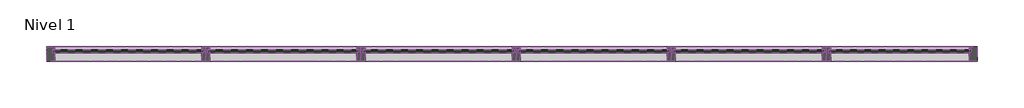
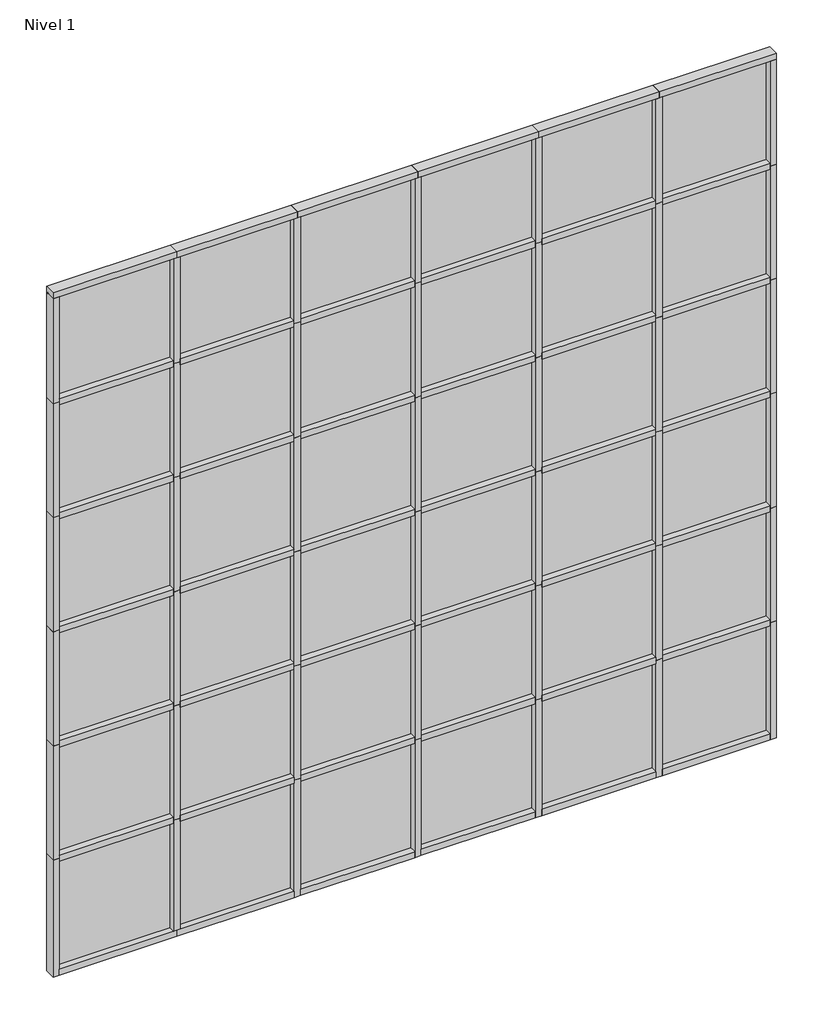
# One storey, part 5 of 12: 84 members, 36 plates.
"""IFC4 building model written with IfcOpenShell, lengths in millimetres."""

from ifc_helpers import new_model, si_unit, origin, place, context, project, spatial, transform, mapped, element, save
from components import montante_rectangular_montante_rectangular_central_30_8_mm_2c331f7a, montante_rectangular_montante_rectangular_central_30_8_mm_c970fd36, montante_rectangular_montante_rectangular_central_30_8_mm_e5800b63, montante_rectangular_montante_rectangular_central_30_8_mm_53c3e57f, montante_rectangular_montante_rectangular_central_30_8_mm_d86f33cf, montante_rectangular_montante_rectangular_central_30_8_mm_2cc1dee6, montante_rectangular_montante_rectangular_extremo_1_30_8_mm_80b4f17c, montante_rectangular_montante_rectangular_extremo_1_30_8_mm_140b2925, montante_rectangular_montante_rectangular_extremo_1_30_8_mm_5074caf2, montante_rectangular_montante_rectangular_extremo_1_30_8_mm_62ab01bd, montante_rectangular_montante_rectangular_extremo_1_30_8_mm_7b62097b, montante_rectangular_montante_rectangular_extremo_1_30_8_mm_4f2bc4b4, plate_e0fb009f, plate_7c9cb06b, plate_31a977c4, plate_dd025fa3

model = new_model("IFC4")

# Units and contexts
model_context = context("Model", 3, world=origin())
ifc_project = project(units=[si_unit("LENGTHUNIT", "METRE", prefix="MILLI")], contexts=[model_context])

# Site, building, storey
site = spatial("IfcSite", under=ifc_project)
building = spatial("IfcBuilding", under=site)
storey = spatial("IfcBuildingStorey", under=building, Name="Nivel 1", Elevation=0.0)

# Members
placement = place(None, origin())
montante_rectangular_montante_rectangular_central_30_8_mm_shape = montante_rectangular_montante_rectangular_central_30_8_mm_2c331f7a(model_context)
element("IfcMember", 1, ObjectType="Montante rectangular : Montante rectangular - Central_30.8 mm", at=placement, inside=storey, context=model_context, shape_type="MappedRepresentation", body=[
    mapped(montante_rectangular_montante_rectangular_central_30_8_mm_shape, transform((-86117.5480244, 4524.4730809, 1540.0), x_axis=(0.0, 0.0, 1.0), y_axis=(0.0, -1.0, 0.0), z_axis=(1.0, 0.0, 0.0))),
])
element("IfcMember", 2, ObjectType="Montante rectangular : Montante rectangular - Central_30.8 mm", at=placement, inside=storey, context=model_context, shape_type="MappedRepresentation", body=[
    mapped(montante_rectangular_montante_rectangular_central_30_8_mm_shape, transform((-84617.5480244, 4524.4730809, 1540.0), x_axis=(0.0, 0.0, 1.0), y_axis=(0.0, -1.0, 0.0), z_axis=(1.0, 0.0, 0.0))),
])
element("IfcMember", 3, ObjectType="Montante rectangular : Montante rectangular - Central_30.8 mm", at=placement, inside=storey, context=model_context, shape_type="MappedRepresentation", body=[
    mapped(montante_rectangular_montante_rectangular_central_30_8_mm_shape, transform((-83117.5480244, 4524.4730809, 1540.0), x_axis=(0.0, 0.0, 1.0), y_axis=(0.0, -1.0, 0.0), z_axis=(1.0, 0.0, 0.0))),
])
element("IfcMember", 4, ObjectType="Montante rectangular : Montante rectangular - Central_30.8 mm", at=placement, inside=storey, context=model_context, shape_type="MappedRepresentation", body=[
    mapped(montante_rectangular_montante_rectangular_central_30_8_mm_shape, transform((-81617.5480244, 4524.4730809, 1540.0), x_axis=(0.0, 0.0, 1.0), y_axis=(0.0, -1.0, 0.0), z_axis=(1.0, 0.0, 0.0))),
])
element("IfcMember", 5, ObjectType="Montante rectangular : Montante rectangular - Central_30.8 mm", at=placement, inside=storey, context=model_context, shape_type="MappedRepresentation", body=[
    mapped(montante_rectangular_montante_rectangular_central_30_8_mm_shape, transform((-80117.5480244, 4524.4730809, 1540.0), x_axis=(0.0, 0.0, 1.0), y_axis=(0.0, -1.0, 0.0), z_axis=(1.0, 0.0, 0.0))),
])
element("IfcMember", 6, ObjectType="Montante rectangular : Montante rectangular - Central_30.8 mm", at=placement, inside=storey, context=model_context, shape_type="MappedRepresentation", body=[
    mapped(montante_rectangular_montante_rectangular_central_30_8_mm_shape, transform((-86117.5480244, 4524.4730809, 3040.0), x_axis=(0.0, 0.0, 1.0), y_axis=(0.0, -1.0, 0.0), z_axis=(1.0, 0.0, 0.0))),
])
element("IfcMember", 7, ObjectType="Montante rectangular : Montante rectangular - Central_30.8 mm", at=placement, inside=storey, context=model_context, shape_type="MappedRepresentation", body=[
    mapped(montante_rectangular_montante_rectangular_central_30_8_mm_shape, transform((-84617.5480244, 4524.4730809, 3040.0), x_axis=(0.0, 0.0, 1.0), y_axis=(0.0, -1.0, 0.0), z_axis=(1.0, 0.0, 0.0))),
])
element("IfcMember", 8, ObjectType="Montante rectangular : Montante rectangular - Central_30.8 mm", at=placement, inside=storey, context=model_context, shape_type="MappedRepresentation", body=[
    mapped(montante_rectangular_montante_rectangular_central_30_8_mm_shape, transform((-83117.5480244, 4524.4730809, 3040.0), x_axis=(0.0, 0.0, 1.0), y_axis=(0.0, -1.0, 0.0), z_axis=(1.0, 0.0, 0.0))),
])
element("IfcMember", 9, ObjectType="Montante rectangular : Montante rectangular - Central_30.8 mm", at=placement, inside=storey, context=model_context, shape_type="MappedRepresentation", body=[
    mapped(montante_rectangular_montante_rectangular_central_30_8_mm_shape, transform((-81617.5480244, 4524.4730809, 3040.0), x_axis=(0.0, 0.0, 1.0), y_axis=(0.0, -1.0, 0.0), z_axis=(1.0, 0.0, 0.0))),
])
element("IfcMember", 10, ObjectType="Montante rectangular : Montante rectangular - Central_30.8 mm", at=placement, inside=storey, context=model_context, shape_type="MappedRepresentation", body=[
    mapped(montante_rectangular_montante_rectangular_central_30_8_mm_shape, transform((-80117.5480244, 4524.4730809, 3040.0), x_axis=(0.0, 0.0, 1.0), y_axis=(0.0, -1.0, 0.0), z_axis=(1.0, 0.0, 0.0))),
])
element("IfcMember", 11, ObjectType="Montante rectangular : Montante rectangular - Central_30.8 mm", at=placement, inside=storey, context=model_context, shape_type="MappedRepresentation", body=[
    mapped(montante_rectangular_montante_rectangular_central_30_8_mm_shape, transform((-86117.5480244, 4524.4730809, 4540.0), x_axis=(0.0, 0.0, 1.0), y_axis=(0.0, -1.0, 0.0), z_axis=(1.0, 0.0, 0.0))),
])
element("IfcMember", 12, ObjectType="Montante rectangular : Montante rectangular - Central_30.8 mm", at=placement, inside=storey, context=model_context, shape_type="MappedRepresentation", body=[
    mapped(montante_rectangular_montante_rectangular_central_30_8_mm_shape, transform((-84617.5480244, 4524.4730809, 4540.0), x_axis=(0.0, 0.0, 1.0), y_axis=(0.0, -1.0, 0.0), z_axis=(1.0, 0.0, 0.0))),
])
element("IfcMember", 13, ObjectType="Montante rectangular : Montante rectangular - Central_30.8 mm", at=placement, inside=storey, context=model_context, shape_type="MappedRepresentation", body=[
    mapped(montante_rectangular_montante_rectangular_central_30_8_mm_shape, transform((-83117.5480244, 4524.4730809, 4540.0), x_axis=(0.0, 0.0, 1.0), y_axis=(0.0, -1.0, 0.0), z_axis=(1.0, 0.0, 0.0))),
])
element("IfcMember", 14, ObjectType="Montante rectangular : Montante rectangular - Central_30.8 mm", at=placement, inside=storey, context=model_context, shape_type="MappedRepresentation", body=[
    mapped(montante_rectangular_montante_rectangular_central_30_8_mm_shape, transform((-81617.5480244, 4524.4730809, 4540.0), x_axis=(0.0, 0.0, 1.0), y_axis=(0.0, -1.0, 0.0), z_axis=(1.0, 0.0, 0.0))),
])
element("IfcMember", 15, ObjectType="Montante rectangular : Montante rectangular - Central_30.8 mm", at=placement, inside=storey, context=model_context, shape_type="MappedRepresentation", body=[
    mapped(montante_rectangular_montante_rectangular_central_30_8_mm_shape, transform((-80117.5480244, 4524.4730809, 4540.0), x_axis=(0.0, 0.0, 1.0), y_axis=(0.0, -1.0, 0.0), z_axis=(1.0, 0.0, 0.0))),
])
element("IfcMember", 16, ObjectType="Montante rectangular : Montante rectangular - Central_30.8 mm", at=placement, inside=storey, context=model_context, shape_type="MappedRepresentation", body=[
    mapped(montante_rectangular_montante_rectangular_central_30_8_mm_shape, transform((-86117.5480244, 4524.4730809, 6040.0), x_axis=(0.0, 0.0, 1.0), y_axis=(0.0, -1.0, 0.0), z_axis=(1.0, 0.0, 0.0))),
])
element("IfcMember", 17, ObjectType="Montante rectangular : Montante rectangular - Central_30.8 mm", at=placement, inside=storey, context=model_context, shape_type="MappedRepresentation", body=[
    mapped(montante_rectangular_montante_rectangular_central_30_8_mm_shape, transform((-84617.5480244, 4524.4730809, 6040.0), x_axis=(0.0, 0.0, 1.0), y_axis=(0.0, -1.0, 0.0), z_axis=(1.0, 0.0, 0.0))),
])
element("IfcMember", 18, ObjectType="Montante rectangular : Montante rectangular - Central_30.8 mm", at=placement, inside=storey, context=model_context, shape_type="MappedRepresentation", body=[
    mapped(montante_rectangular_montante_rectangular_central_30_8_mm_shape, transform((-83117.5480244, 4524.4730809, 6040.0), x_axis=(0.0, 0.0, 1.0), y_axis=(0.0, -1.0, 0.0), z_axis=(1.0, 0.0, 0.0))),
])
element("IfcMember", 19, ObjectType="Montante rectangular : Montante rectangular - Central_30.8 mm", at=placement, inside=storey, context=model_context, shape_type="MappedRepresentation", body=[
    mapped(montante_rectangular_montante_rectangular_central_30_8_mm_shape, transform((-81617.5480244, 4524.4730809, 6040.0), x_axis=(0.0, 0.0, 1.0), y_axis=(0.0, -1.0, 0.0), z_axis=(1.0, 0.0, 0.0))),
])
element("IfcMember", 20, ObjectType="Montante rectangular : Montante rectangular - Central_30.8 mm", at=placement, inside=storey, context=model_context, shape_type="MappedRepresentation", body=[
    mapped(montante_rectangular_montante_rectangular_central_30_8_mm_shape, transform((-80117.5480244, 4524.4730809, 6040.0), x_axis=(0.0, 0.0, 1.0), y_axis=(0.0, -1.0, 0.0), z_axis=(1.0, 0.0, 0.0))),
])
element("IfcMember", 21, ObjectType="Montante rectangular : Montante rectangular - Central_30.8 mm", at=placement, inside=storey, context=model_context, shape_type="MappedRepresentation", body=[
    mapped(montante_rectangular_montante_rectangular_central_30_8_mm_shape, transform((-86117.5480244, 4524.4730809, 7540.0), x_axis=(0.0, 0.0, 1.0), y_axis=(0.0, -1.0, 0.0), z_axis=(1.0, 0.0, 0.0))),
])
element("IfcMember", 22, ObjectType="Montante rectangular : Montante rectangular - Central_30.8 mm", at=placement, inside=storey, context=model_context, shape_type="MappedRepresentation", body=[
    mapped(montante_rectangular_montante_rectangular_central_30_8_mm_shape, transform((-84617.5480244, 4524.4730809, 7540.0), x_axis=(0.0, 0.0, 1.0), y_axis=(0.0, -1.0, 0.0), z_axis=(1.0, 0.0, 0.0))),
])
element("IfcMember", 23, ObjectType="Montante rectangular : Montante rectangular - Central_30.8 mm", at=placement, inside=storey, context=model_context, shape_type="MappedRepresentation", body=[
    mapped(montante_rectangular_montante_rectangular_central_30_8_mm_shape, transform((-83117.5480244, 4524.4730809, 7540.0), x_axis=(0.0, 0.0, 1.0), y_axis=(0.0, -1.0, 0.0), z_axis=(1.0, 0.0, 0.0))),
])
element("IfcMember", 24, ObjectType="Montante rectangular : Montante rectangular - Central_30.8 mm", at=placement, inside=storey, context=model_context, shape_type="MappedRepresentation", body=[
    mapped(montante_rectangular_montante_rectangular_central_30_8_mm_shape, transform((-81617.5480244, 4524.4730809, 7540.0), x_axis=(0.0, 0.0, 1.0), y_axis=(0.0, -1.0, 0.0), z_axis=(1.0, 0.0, 0.0))),
])
element("IfcMember", 25, ObjectType="Montante rectangular : Montante rectangular - Central_30.8 mm", at=placement, inside=storey, context=model_context, shape_type="MappedRepresentation", body=[
    mapped(montante_rectangular_montante_rectangular_central_30_8_mm_shape, transform((-80117.5480244, 4524.4730809, 7540.0), x_axis=(0.0, 0.0, 1.0), y_axis=(0.0, -1.0, 0.0), z_axis=(1.0, 0.0, 0.0))),
])
montante_rectangular_montante_rectangular_central_30_8_mm_2_shape = montante_rectangular_montante_rectangular_central_30_8_mm_c970fd36(model_context)
element("IfcMember", 26, ObjectType="Montante rectangular : Montante rectangular - Central_30.8 mm", at=placement, inside=storey, context=model_context, shape_type="MappedRepresentation", body=[
    mapped(montante_rectangular_montante_rectangular_central_30_8_mm_2_shape, transform((-86077.5480244, 4524.4730809, 80.0), x_axis=(1.0, 0.0, 0.0), y_axis=(0.0, -1.0, 0.0), z_axis=(0.0, 0.0, -1.0))),
])
montante_rectangular_montante_rectangular_central_30_8_mm_3_shape = montante_rectangular_montante_rectangular_central_30_8_mm_e5800b63(model_context)
element("IfcMember", 27, ObjectType="Montante rectangular : Montante rectangular - Central_30.8 mm", at=placement, inside=storey, context=model_context, shape_type="MappedRepresentation", body=[
    mapped(montante_rectangular_montante_rectangular_central_30_8_mm_3_shape, transform((-86077.5480244, 4524.4730809, 1540.0), x_axis=(1.0, 0.0, 0.0), y_axis=(0.0, -1.0, 0.0), z_axis=(0.0, 0.0, -1.0))),
])
element("IfcMember", 28, ObjectType="Montante rectangular : Montante rectangular - Central_30.8 mm", at=placement, inside=storey, context=model_context, shape_type="MappedRepresentation", body=[
    mapped(montante_rectangular_montante_rectangular_central_30_8_mm_3_shape, transform((-84577.5480244, 4524.4730809, 1540.0), x_axis=(1.0, 0.0, 0.0), y_axis=(0.0, -1.0, 0.0), z_axis=(0.0, 0.0, -1.0))),
])
element("IfcMember", 29, ObjectType="Montante rectangular : Montante rectangular - Central_30.8 mm", at=placement, inside=storey, context=model_context, shape_type="MappedRepresentation", body=[
    mapped(montante_rectangular_montante_rectangular_central_30_8_mm_3_shape, transform((-83077.5480244, 4524.4730809, 1540.0), x_axis=(1.0, 0.0, 0.0), y_axis=(0.0, -1.0, 0.0), z_axis=(0.0, 0.0, -1.0))),
])
element("IfcMember", 30, ObjectType="Montante rectangular : Montante rectangular - Central_30.8 mm", at=placement, inside=storey, context=model_context, shape_type="MappedRepresentation", body=[
    mapped(montante_rectangular_montante_rectangular_central_30_8_mm_3_shape, transform((-81577.5480244, 4524.4730809, 1540.0), x_axis=(1.0, 0.0, 0.0), y_axis=(0.0, -1.0, 0.0), z_axis=(0.0, 0.0, -1.0))),
])
element("IfcMember", 31, ObjectType="Montante rectangular : Montante rectangular - Central_30.8 mm", at=placement, inside=storey, context=model_context, shape_type="MappedRepresentation", body=[
    mapped(montante_rectangular_montante_rectangular_central_30_8_mm_3_shape, transform((-80077.5480244, 4524.4730809, 1540.0), x_axis=(1.0, 0.0, 0.0), y_axis=(0.0, -1.0, 0.0), z_axis=(0.0, 0.0, -1.0))),
])
element("IfcMember", 32, ObjectType="Montante rectangular : Montante rectangular - Central_30.8 mm", at=placement, inside=storey, context=model_context, shape_type="MappedRepresentation", body=[
    mapped(montante_rectangular_montante_rectangular_central_30_8_mm_3_shape, transform((-86077.5480244, 4524.4730809, 3040.0), x_axis=(1.0, 0.0, 0.0), y_axis=(0.0, -1.0, 0.0), z_axis=(0.0, 0.0, -1.0))),
])
element("IfcMember", 33, ObjectType="Montante rectangular : Montante rectangular - Central_30.8 mm", at=placement, inside=storey, context=model_context, shape_type="MappedRepresentation", body=[
    mapped(montante_rectangular_montante_rectangular_central_30_8_mm_3_shape, transform((-86077.5480244, 4524.4730809, 4540.0), x_axis=(1.0, 0.0, 0.0), y_axis=(0.0, -1.0, 0.0), z_axis=(0.0, 0.0, -1.0))),
])
element("IfcMember", 34, ObjectType="Montante rectangular : Montante rectangular - Central_30.8 mm", at=placement, inside=storey, context=model_context, shape_type="MappedRepresentation", body=[
    mapped(montante_rectangular_montante_rectangular_central_30_8_mm_3_shape, transform((-86077.5480244, 4524.4730809, 6040.0), x_axis=(1.0, 0.0, 0.0), y_axis=(0.0, -1.0, 0.0), z_axis=(0.0, 0.0, -1.0))),
])
element("IfcMember", 35, ObjectType="Montante rectangular : Montante rectangular - Central_30.8 mm", at=placement, inside=storey, context=model_context, shape_type="MappedRepresentation", body=[
    mapped(montante_rectangular_montante_rectangular_central_30_8_mm_3_shape, transform((-84577.5480244, 4524.4730809, 3040.0), x_axis=(1.0, 0.0, 0.0), y_axis=(0.0, -1.0, 0.0), z_axis=(0.0, 0.0, -1.0))),
])
element("IfcMember", 36, ObjectType="Montante rectangular : Montante rectangular - Central_30.8 mm", at=placement, inside=storey, context=model_context, shape_type="MappedRepresentation", body=[
    mapped(montante_rectangular_montante_rectangular_central_30_8_mm_3_shape, transform((-84577.5480244, 4524.4730809, 4540.0), x_axis=(1.0, 0.0, 0.0), y_axis=(0.0, -1.0, 0.0), z_axis=(0.0, 0.0, -1.0))),
])
element("IfcMember", 37, ObjectType="Montante rectangular : Montante rectangular - Central_30.8 mm", at=placement, inside=storey, context=model_context, shape_type="MappedRepresentation", body=[
    mapped(montante_rectangular_montante_rectangular_central_30_8_mm_3_shape, transform((-84577.5480244, 4524.4730809, 6040.0), x_axis=(1.0, 0.0, 0.0), y_axis=(0.0, -1.0, 0.0), z_axis=(0.0, 0.0, -1.0))),
])
element("IfcMember", 38, ObjectType="Montante rectangular : Montante rectangular - Central_30.8 mm", at=placement, inside=storey, context=model_context, shape_type="MappedRepresentation", body=[
    mapped(montante_rectangular_montante_rectangular_central_30_8_mm_3_shape, transform((-83077.5480244, 4524.4730809, 3040.0), x_axis=(1.0, 0.0, 0.0), y_axis=(0.0, -1.0, 0.0), z_axis=(0.0, 0.0, -1.0))),
])
element("IfcMember", 39, ObjectType="Montante rectangular : Montante rectangular - Central_30.8 mm", at=placement, inside=storey, context=model_context, shape_type="MappedRepresentation", body=[
    mapped(montante_rectangular_montante_rectangular_central_30_8_mm_3_shape, transform((-83077.5480244, 4524.4730809, 4540.0), x_axis=(1.0, 0.0, 0.0), y_axis=(0.0, -1.0, 0.0), z_axis=(0.0, 0.0, -1.0))),
])
element("IfcMember", 40, ObjectType="Montante rectangular : Montante rectangular - Central_30.8 mm", at=placement, inside=storey, context=model_context, shape_type="MappedRepresentation", body=[
    mapped(montante_rectangular_montante_rectangular_central_30_8_mm_3_shape, transform((-83077.5480244, 4524.4730809, 6040.0), x_axis=(1.0, 0.0, 0.0), y_axis=(0.0, -1.0, 0.0), z_axis=(0.0, 0.0, -1.0))),
])
element("IfcMember", 41, ObjectType="Montante rectangular : Montante rectangular - Central_30.8 mm", at=placement, inside=storey, context=model_context, shape_type="MappedRepresentation", body=[
    mapped(montante_rectangular_montante_rectangular_central_30_8_mm_3_shape, transform((-81577.5480244, 4524.4730809, 3040.0), x_axis=(1.0, 0.0, 0.0), y_axis=(0.0, -1.0, 0.0), z_axis=(0.0, 0.0, -1.0))),
])
element("IfcMember", 42, ObjectType="Montante rectangular : Montante rectangular - Central_30.8 mm", at=placement, inside=storey, context=model_context, shape_type="MappedRepresentation", body=[
    mapped(montante_rectangular_montante_rectangular_central_30_8_mm_3_shape, transform((-81577.5480244, 4524.4730809, 4540.0), x_axis=(1.0, 0.0, 0.0), y_axis=(0.0, -1.0, 0.0), z_axis=(0.0, 0.0, -1.0))),
])
element("IfcMember", 43, ObjectType="Montante rectangular : Montante rectangular - Central_30.8 mm", at=placement, inside=storey, context=model_context, shape_type="MappedRepresentation", body=[
    mapped(montante_rectangular_montante_rectangular_central_30_8_mm_3_shape, transform((-81577.5480244, 4524.4730809, 6040.0), x_axis=(1.0, 0.0, 0.0), y_axis=(0.0, -1.0, 0.0), z_axis=(0.0, 0.0, -1.0))),
])
element("IfcMember", 44, ObjectType="Montante rectangular : Montante rectangular - Central_30.8 mm", at=placement, inside=storey, context=model_context, shape_type="MappedRepresentation", body=[
    mapped(montante_rectangular_montante_rectangular_central_30_8_mm_3_shape, transform((-80077.5480244, 4524.4730809, 3040.0), x_axis=(1.0, 0.0, 0.0), y_axis=(0.0, -1.0, 0.0), z_axis=(0.0, 0.0, -1.0))),
])
element("IfcMember", 45, ObjectType="Montante rectangular : Montante rectangular - Central_30.8 mm", at=placement, inside=storey, context=model_context, shape_type="MappedRepresentation", body=[
    mapped(montante_rectangular_montante_rectangular_central_30_8_mm_3_shape, transform((-80077.5480244, 4524.4730809, 4540.0), x_axis=(1.0, 0.0, 0.0), y_axis=(0.0, -1.0, 0.0), z_axis=(0.0, 0.0, -1.0))),
])
element("IfcMember", 46, ObjectType="Montante rectangular : Montante rectangular - Central_30.8 mm", at=placement, inside=storey, context=model_context, shape_type="MappedRepresentation", body=[
    mapped(montante_rectangular_montante_rectangular_central_30_8_mm_3_shape, transform((-80077.5480244, 4524.4730809, 6040.0), x_axis=(1.0, 0.0, 0.0), y_axis=(0.0, -1.0, 0.0), z_axis=(0.0, 0.0, -1.0))),
])
montante_rectangular_montante_rectangular_central_30_8_mm_4_shape = montante_rectangular_montante_rectangular_central_30_8_mm_53c3e57f(model_context)
element("IfcMember", 47, ObjectType="Montante rectangular : Montante rectangular - Central_30.8 mm", at=placement, inside=storey, context=model_context, shape_type="MappedRepresentation", body=[
    mapped(montante_rectangular_montante_rectangular_central_30_8_mm_4_shape, transform((-84577.5480244, 4524.4730809, 0.0), x_axis=(1.0, 0.0, 0.0), y_axis=(0.0, -1.0, 0.0), z_axis=(0.0, 0.0, -1.0))),
])
element("IfcMember", 48, ObjectType="Montante rectangular : Montante rectangular - Central_30.8 mm", at=placement, inside=storey, context=model_context, shape_type="MappedRepresentation", body=[
    mapped(montante_rectangular_montante_rectangular_central_30_8_mm_4_shape, transform((-83077.5480244, 4524.4730809, 0.0), x_axis=(1.0, 0.0, 0.0), y_axis=(0.0, -1.0, 0.0), z_axis=(0.0, 0.0, -1.0))),
])
element("IfcMember", 49, ObjectType="Montante rectangular : Montante rectangular - Central_30.8 mm", at=placement, inside=storey, context=model_context, shape_type="MappedRepresentation", body=[
    mapped(montante_rectangular_montante_rectangular_central_30_8_mm_4_shape, transform((-81577.5480244, 4524.4730809, 0.0), x_axis=(1.0, 0.0, 0.0), y_axis=(0.0, -1.0, 0.0), z_axis=(0.0, 0.0, -1.0))),
])
element("IfcMember", 50, ObjectType="Montante rectangular : Montante rectangular - Central_30.8 mm", at=placement, inside=storey, context=model_context, shape_type="MappedRepresentation", body=[
    mapped(montante_rectangular_montante_rectangular_central_30_8_mm_4_shape, transform((-80077.5480244, 4524.4730809, 0.0), x_axis=(1.0, 0.0, 0.0), y_axis=(0.0, -1.0, 0.0), z_axis=(0.0, 0.0, -1.0))),
])
montante_rectangular_montante_rectangular_central_30_8_mm_5_shape = montante_rectangular_montante_rectangular_central_30_8_mm_d86f33cf(model_context)
element("IfcMember", 51, ObjectType="Montante rectangular : Montante rectangular - Central_30.8 mm", at=placement, inside=storey, context=model_context, shape_type="MappedRepresentation", body=[
    mapped(montante_rectangular_montante_rectangular_central_30_8_mm_5_shape, transform((-78697.5480244, 4524.4730809, 1540.0), x_axis=(0.0, 0.0, 1.0), y_axis=(0.0, -1.0, 0.0), z_axis=(1.0, 0.0, 0.0))),
])
element("IfcMember", 52, ObjectType="Montante rectangular : Montante rectangular - Central_30.8 mm", at=placement, inside=storey, context=model_context, shape_type="MappedRepresentation", body=[
    mapped(montante_rectangular_montante_rectangular_central_30_8_mm_5_shape, transform((-78697.5480244, 4524.4730809, 3040.0), x_axis=(0.0, 0.0, 1.0), y_axis=(0.0, -1.0, 0.0), z_axis=(1.0, 0.0, 0.0))),
])
element("IfcMember", 53, ObjectType="Montante rectangular : Montante rectangular - Central_30.8 mm", at=placement, inside=storey, context=model_context, shape_type="MappedRepresentation", body=[
    mapped(montante_rectangular_montante_rectangular_central_30_8_mm_5_shape, transform((-78697.5480244, 4524.4730809, 4540.0), x_axis=(0.0, 0.0, 1.0), y_axis=(0.0, -1.0, 0.0), z_axis=(1.0, 0.0, 0.0))),
])
element("IfcMember", 54, ObjectType="Montante rectangular : Montante rectangular - Central_30.8 mm", at=placement, inside=storey, context=model_context, shape_type="MappedRepresentation", body=[
    mapped(montante_rectangular_montante_rectangular_central_30_8_mm_5_shape, transform((-78697.5480244, 4524.4730809, 6040.0), x_axis=(0.0, 0.0, 1.0), y_axis=(0.0, -1.0, 0.0), z_axis=(1.0, 0.0, 0.0))),
])
element("IfcMember", 55, ObjectType="Montante rectangular : Montante rectangular - Central_30.8 mm", at=placement, inside=storey, context=model_context, shape_type="MappedRepresentation", body=[
    mapped(montante_rectangular_montante_rectangular_central_30_8_mm_5_shape, transform((-78697.5480244, 4524.4730809, 7540.0), x_axis=(0.0, 0.0, 1.0), y_axis=(0.0, -1.0, 0.0), z_axis=(1.0, 0.0, 0.0))),
])
montante_rectangular_montante_rectangular_central_30_8_mm_6_shape = montante_rectangular_montante_rectangular_central_30_8_mm_2cc1dee6(model_context)
element("IfcMember", 56, ObjectType="Montante rectangular : Montante rectangular - Central_30.8 mm", at=placement, inside=storey, context=model_context, shape_type="MappedRepresentation", body=[
    mapped(montante_rectangular_montante_rectangular_central_30_8_mm_6_shape, transform((-86077.5480244, 4524.4730809, 7540.0), x_axis=(1.0, 0.0, 0.0), y_axis=(0.0, -1.0, 0.0), z_axis=(0.0, 0.0, -1.0))),
])
element("IfcMember", 57, ObjectType="Montante rectangular : Montante rectangular - Central_30.8 mm", at=placement, inside=storey, context=model_context, shape_type="MappedRepresentation", body=[
    mapped(montante_rectangular_montante_rectangular_central_30_8_mm_6_shape, transform((-84577.5480244, 4524.4730809, 7540.0), x_axis=(1.0, 0.0, 0.0), y_axis=(0.0, -1.0, 0.0), z_axis=(0.0, 0.0, -1.0))),
])
element("IfcMember", 58, ObjectType="Montante rectangular : Montante rectangular - Central_30.8 mm", at=placement, inside=storey, context=model_context, shape_type="MappedRepresentation", body=[
    mapped(montante_rectangular_montante_rectangular_central_30_8_mm_6_shape, transform((-83077.5480244, 4524.4730809, 7540.0), x_axis=(1.0, 0.0, 0.0), y_axis=(0.0, -1.0, 0.0), z_axis=(0.0, 0.0, -1.0))),
])
element("IfcMember", 59, ObjectType="Montante rectangular : Montante rectangular - Central_30.8 mm", at=placement, inside=storey, context=model_context, shape_type="MappedRepresentation", body=[
    mapped(montante_rectangular_montante_rectangular_central_30_8_mm_6_shape, transform((-81577.5480244, 4524.4730809, 7540.0), x_axis=(1.0, 0.0, 0.0), y_axis=(0.0, -1.0, 0.0), z_axis=(0.0, 0.0, -1.0))),
])
element("IfcMember", 60, ObjectType="Montante rectangular : Montante rectangular - Central_30.8 mm", at=placement, inside=storey, context=model_context, shape_type="MappedRepresentation", body=[
    mapped(montante_rectangular_montante_rectangular_central_30_8_mm_6_shape, transform((-80077.5480244, 4524.4730809, 7540.0), x_axis=(1.0, 0.0, 0.0), y_axis=(0.0, -1.0, 0.0), z_axis=(0.0, 0.0, -1.0))),
])
montante_rectangular_montante_rectangular_extremo_1_30_8_mm_shape = montante_rectangular_montante_rectangular_extremo_1_30_8_mm_80b4f17c(model_context)
element("IfcMember", 61, ObjectType="Montante rectangular : Montante rectangular - Extremo 1_30.8 mm", at=placement, inside=storey, context=model_context, shape_type="MappedRepresentation", body=[
    mapped(montante_rectangular_montante_rectangular_extremo_1_30_8_mm_shape, transform((-87537.5480244, 4524.4730809, 0.0), x_axis=(0.0, 0.0, -1.0), y_axis=(0.0, -1.0, 0.0), z_axis=(-1.0, 0.0, 0.0))),
])
element("IfcMember", 62, ObjectType="Montante rectangular : Montante rectangular - Extremo 1_30.8 mm", at=placement, inside=storey, context=model_context, shape_type="MappedRepresentation", body=[
    mapped(montante_rectangular_montante_rectangular_extremo_1_30_8_mm_shape, transform((-86077.5480244, 4524.4730809, 0.0), x_axis=(0.0, 0.0, -1.0), y_axis=(0.0, -1.0, 0.0), z_axis=(-1.0, 0.0, 0.0))),
])
montante_rectangular_montante_rectangular_extremo_1_30_8_mm_2_shape = montante_rectangular_montante_rectangular_extremo_1_30_8_mm_140b2925(model_context)
element("IfcMember", 63, ObjectType="Montante rectangular : Montante rectangular - Extremo 1_30.8 mm", at=placement, inside=storey, context=model_context, shape_type="MappedRepresentation", body=[
    mapped(montante_rectangular_montante_rectangular_extremo_1_30_8_mm_2_shape, transform((-84537.5480244, 4524.4730809, 0.0), x_axis=(0.0, 0.0, -1.0), y_axis=(0.0, -1.0, 0.0), z_axis=(-1.0, 0.0, 0.0))),
])
element("IfcMember", 64, ObjectType="Montante rectangular : Montante rectangular - Extremo 1_30.8 mm", at=placement, inside=storey, context=model_context, shape_type="MappedRepresentation", body=[
    mapped(montante_rectangular_montante_rectangular_extremo_1_30_8_mm_2_shape, transform((-83037.5480244, 4524.4730809, 0.0), x_axis=(0.0, 0.0, -1.0), y_axis=(0.0, -1.0, 0.0), z_axis=(-1.0, 0.0, 0.0))),
])
element("IfcMember", 65, ObjectType="Montante rectangular : Montante rectangular - Extremo 1_30.8 mm", at=placement, inside=storey, context=model_context, shape_type="MappedRepresentation", body=[
    mapped(montante_rectangular_montante_rectangular_extremo_1_30_8_mm_2_shape, transform((-81537.5480244, 4524.4730809, 0.0), x_axis=(0.0, 0.0, -1.0), y_axis=(0.0, -1.0, 0.0), z_axis=(-1.0, 0.0, 0.0))),
])
montante_rectangular_montante_rectangular_extremo_1_30_8_mm_3_shape = montante_rectangular_montante_rectangular_extremo_1_30_8_mm_5074caf2(model_context)
element("IfcMember", 66, ObjectType="Montante rectangular : Montante rectangular - Extremo 1_30.8 mm", at=placement, inside=storey, context=model_context, shape_type="MappedRepresentation", body=[
    mapped(montante_rectangular_montante_rectangular_extremo_1_30_8_mm_3_shape, transform((-80037.5480244, 4524.4730809, 0.0), x_axis=(0.0, 0.0, -1.0), y_axis=(0.0, -1.0, 0.0), z_axis=(-1.0, 0.0, 0.0))),
])
montante_rectangular_montante_rectangular_extremo_1_30_8_mm_4_shape = montante_rectangular_montante_rectangular_extremo_1_30_8_mm_62ab01bd(model_context)
element("IfcMember", 67, ObjectType="Montante rectangular : Montante rectangular - Extremo 1_30.8 mm", at=placement, inside=storey, context=model_context, shape_type="MappedRepresentation", body=[
    mapped(montante_rectangular_montante_rectangular_extremo_1_30_8_mm_4_shape, transform((-87617.5480244, 4524.4730809, 8920.0), x_axis=(-1.0, 0.0, 0.0), y_axis=(0.0, -1.0, 0.0), z_axis=(0.0, 0.0, 1.0))),
])
montante_rectangular_montante_rectangular_extremo_1_30_8_mm_5_shape = montante_rectangular_montante_rectangular_extremo_1_30_8_mm_7b62097b(model_context)
element("IfcMember", 68, ObjectType="Montante rectangular : Montante rectangular - Extremo 1_30.8 mm", at=placement, inside=storey, context=model_context, shape_type="MappedRepresentation", body=[
    mapped(montante_rectangular_montante_rectangular_extremo_1_30_8_mm_5_shape, transform((-87617.5480244, 4524.4730809, 1540.0), x_axis=(-1.0, 0.0, 0.0), y_axis=(0.0, -1.0, 0.0), z_axis=(0.0, 0.0, 1.0))),
])
montante_rectangular_montante_rectangular_extremo_1_30_8_mm_6_shape = montante_rectangular_montante_rectangular_extremo_1_30_8_mm_4f2bc4b4(model_context)
element("IfcMember", 69, ObjectType="Montante rectangular : Montante rectangular - Extremo 1_30.8 mm", at=placement, inside=storey, context=model_context, shape_type="MappedRepresentation", body=[
    mapped(montante_rectangular_montante_rectangular_extremo_1_30_8_mm_6_shape, transform((-87617.5480244, 4524.4730809, 3040.0), x_axis=(-1.0, 0.0, 0.0), y_axis=(0.0, -1.0, 0.0), z_axis=(0.0, 0.0, 1.0))),
])
element("IfcMember", 70, ObjectType="Montante rectangular : Montante rectangular - Extremo 1_30.8 mm", at=placement, inside=storey, context=model_context, shape_type="MappedRepresentation", body=[
    mapped(montante_rectangular_montante_rectangular_extremo_1_30_8_mm_6_shape, transform((-87617.5480244, 4524.4730809, 4540.0), x_axis=(-1.0, 0.0, 0.0), y_axis=(0.0, -1.0, 0.0), z_axis=(0.0, 0.0, 1.0))),
])
element("IfcMember", 71, ObjectType="Montante rectangular : Montante rectangular - Extremo 1_30.8 mm", at=placement, inside=storey, context=model_context, shape_type="MappedRepresentation", body=[
    mapped(montante_rectangular_montante_rectangular_extremo_1_30_8_mm_6_shape, transform((-87617.5480244, 4524.4730809, 6040.0), x_axis=(-1.0, 0.0, 0.0), y_axis=(0.0, -1.0, 0.0), z_axis=(0.0, 0.0, 1.0))),
])
element("IfcMember", 72, ObjectType="Montante rectangular : Montante rectangular - Extremo 1_30.8 mm", at=placement, inside=storey, context=model_context, shape_type="MappedRepresentation", body=[
    mapped(montante_rectangular_montante_rectangular_extremo_1_30_8_mm_6_shape, transform((-87617.5480244, 4524.4730809, 7540.0), x_axis=(-1.0, 0.0, 0.0), y_axis=(0.0, -1.0, 0.0), z_axis=(0.0, 0.0, 1.0))),
])
element("IfcMember", 73, ObjectType="Montante rectangular : Montante rectangular - Extremo 2_30.8 mm", at=placement, inside=storey, context=model_context, shape_type="MappedRepresentation", body=[
    mapped(montante_rectangular_montante_rectangular_extremo_1_30_8_mm_shape, transform((-78617.5480244, 4524.4730809, 9000.0), x_axis=(0.0, 0.0, 1.0), y_axis=(0.0, -1.0, 0.0), z_axis=(1.0, 0.0, 0.0))),
])
element("IfcMember", 74, ObjectType="Montante rectangular : Montante rectangular - Extremo 2_30.8 mm", at=placement, inside=storey, context=model_context, shape_type="MappedRepresentation", body=[
    mapped(montante_rectangular_montante_rectangular_extremo_1_30_8_mm_5_shape, transform((-86077.5480244, 4524.4730809, 9000.0), x_axis=(0.0, 0.0, 1.0), y_axis=(0.0, -1.0, 0.0), z_axis=(1.0, 0.0, 0.0))),
])
element("IfcMember", 75, ObjectType="Montante rectangular : Montante rectangular - Extremo 2_30.8 mm", at=placement, inside=storey, context=model_context, shape_type="MappedRepresentation", body=[
    mapped(montante_rectangular_montante_rectangular_extremo_1_30_8_mm_6_shape, transform((-84577.5480244, 4524.4730809, 9000.0), x_axis=(0.0, 0.0, 1.0), y_axis=(0.0, -1.0, 0.0), z_axis=(1.0, 0.0, 0.0))),
])
element("IfcMember", 76, ObjectType="Montante rectangular : Montante rectangular - Extremo 2_30.8 mm", at=placement, inside=storey, context=model_context, shape_type="MappedRepresentation", body=[
    mapped(montante_rectangular_montante_rectangular_extremo_1_30_8_mm_6_shape, transform((-83077.5480244, 4524.4730809, 9000.0), x_axis=(0.0, 0.0, 1.0), y_axis=(0.0, -1.0, 0.0), z_axis=(1.0, 0.0, 0.0))),
])
element("IfcMember", 77, ObjectType="Montante rectangular : Montante rectangular - Extremo 2_30.8 mm", at=placement, inside=storey, context=model_context, shape_type="MappedRepresentation", body=[
    mapped(montante_rectangular_montante_rectangular_extremo_1_30_8_mm_6_shape, transform((-81577.5480244, 4524.4730809, 9000.0), x_axis=(0.0, 0.0, 1.0), y_axis=(0.0, -1.0, 0.0), z_axis=(1.0, 0.0, 0.0))),
])
element("IfcMember", 78, ObjectType="Montante rectangular : Montante rectangular - Extremo 2_30.8 mm", at=placement, inside=storey, context=model_context, shape_type="MappedRepresentation", body=[
    mapped(montante_rectangular_montante_rectangular_extremo_1_30_8_mm_6_shape, transform((-80077.5480244, 4524.4730809, 9000.0), x_axis=(0.0, 0.0, 1.0), y_axis=(0.0, -1.0, 0.0), z_axis=(1.0, 0.0, 0.0))),
])
element("IfcMember", 79, ObjectType="Montante rectangular : Montante rectangular - Extremo 2_30.8 mm", at=placement, inside=storey, context=model_context, shape_type="MappedRepresentation", body=[
    mapped(montante_rectangular_montante_rectangular_extremo_1_30_8_mm_5_shape, transform((-78617.5480244, 4524.4730809, 0.0), x_axis=(1.0, 0.0, 0.0), y_axis=(0.0, -1.0, 0.0), z_axis=(0.0, 0.0, -1.0))),
])
element("IfcMember", 80, ObjectType="Montante rectangular : Montante rectangular - Extremo 2_30.8 mm", at=placement, inside=storey, context=model_context, shape_type="MappedRepresentation", body=[
    mapped(montante_rectangular_montante_rectangular_extremo_1_30_8_mm_6_shape, transform((-78617.5480244, 4524.4730809, 1540.0), x_axis=(1.0, 0.0, 0.0), y_axis=(0.0, -1.0, 0.0), z_axis=(0.0, 0.0, -1.0))),
])
element("IfcMember", 81, ObjectType="Montante rectangular : Montante rectangular - Extremo 2_30.8 mm", at=placement, inside=storey, context=model_context, shape_type="MappedRepresentation", body=[
    mapped(montante_rectangular_montante_rectangular_extremo_1_30_8_mm_6_shape, transform((-78617.5480244, 4524.4730809, 3040.0), x_axis=(1.0, 0.0, 0.0), y_axis=(0.0, -1.0, 0.0), z_axis=(0.0, 0.0, -1.0))),
])
element("IfcMember", 82, ObjectType="Montante rectangular : Montante rectangular - Extremo 2_30.8 mm", at=placement, inside=storey, context=model_context, shape_type="MappedRepresentation", body=[
    mapped(montante_rectangular_montante_rectangular_extremo_1_30_8_mm_6_shape, transform((-78617.5480244, 4524.4730809, 4540.0), x_axis=(1.0, 0.0, 0.0), y_axis=(0.0, -1.0, 0.0), z_axis=(0.0, 0.0, -1.0))),
])
element("IfcMember", 83, ObjectType="Montante rectangular : Montante rectangular - Extremo 2_30.8 mm", at=placement, inside=storey, context=model_context, shape_type="MappedRepresentation", body=[
    mapped(montante_rectangular_montante_rectangular_extremo_1_30_8_mm_6_shape, transform((-78617.5480244, 4524.4730809, 6040.0), x_axis=(1.0, 0.0, 0.0), y_axis=(0.0, -1.0, 0.0), z_axis=(0.0, 0.0, -1.0))),
])
element("IfcMember", 84, ObjectType="Montante rectangular : Montante rectangular - Extremo 2_30.8 mm", at=placement, inside=storey, context=model_context, shape_type="MappedRepresentation", body=[
    mapped(montante_rectangular_montante_rectangular_extremo_1_30_8_mm_4_shape, transform((-78617.5480244, 4524.4730809, 7540.0), x_axis=(1.0, 0.0, 0.0), y_axis=(0.0, -1.0, 0.0), z_axis=(0.0, 0.0, -1.0))),
])

# Plates
plate_shape = plate_e0fb009f(model_context)
element("IfcPlate", 85, ObjectType="2014_Panel-Cristal-MC_SGG_COOL-LITE-ST 436 : CLIMALIT PLUS con COOL LITE ST 436 F2 6 (16 argon90%) 44.2", at=placement, inside=storey, context=model_context, shape_type="MappedRepresentation", body=[
    mapped(plate_shape, transform((-86827.5480244, 4524.4730809, 80.0), x_axis=(1.0, 0.0, 0.0), y_axis=(0.0, 1.0, 0.0), z_axis=(0.0, 0.0, 1.0))),
])
element("IfcPlate", 86, ObjectType="2014_Panel-Cristal-MC_SGG_COOL-LITE-ST 436 : CLIMALIT PLUS con COOL LITE ST 436 F2 6 (16 argon90%) 44.2", at=placement, inside=storey, context=model_context, shape_type="MappedRepresentation", body=[
    mapped(plate_shape, transform((-86827.5480244, 4524.4730809, 1580.0), x_axis=(1.0, 0.0, 0.0), y_axis=(0.0, 1.0, 0.0), z_axis=(0.0, 0.0, 1.0))),
])
element("IfcPlate", 87, ObjectType="2014_Panel-Cristal-MC_SGG_COOL-LITE-ST 436 : CLIMALIT PLUS con COOL LITE ST 436 F2 6 (16 argon90%) 44.2", at=placement, inside=storey, context=model_context, shape_type="MappedRepresentation", body=[
    mapped(plate_shape, transform((-86827.5480244, 4524.4730809, 3080.0), x_axis=(1.0, 0.0, 0.0), y_axis=(0.0, 1.0, 0.0), z_axis=(0.0, 0.0, 1.0))),
])
element("IfcPlate", 88, ObjectType="2014_Panel-Cristal-MC_SGG_COOL-LITE-ST 436 : CLIMALIT PLUS con COOL LITE ST 436 F2 6 (16 argon90%) 44.2", at=placement, inside=storey, context=model_context, shape_type="MappedRepresentation", body=[
    mapped(plate_shape, transform((-86827.5480244, 4524.4730809, 4580.0), x_axis=(1.0, 0.0, 0.0), y_axis=(0.0, 1.0, 0.0), z_axis=(0.0, 0.0, 1.0))),
])
element("IfcPlate", 89, ObjectType="2014_Panel-Cristal-MC_SGG_COOL-LITE-ST 436 : CLIMALIT PLUS con COOL LITE ST 436 F2 6 (16 argon90%) 44.2", at=placement, inside=storey, context=model_context, shape_type="MappedRepresentation", body=[
    mapped(plate_shape, transform((-86827.5480244, 4524.4730809, 6080.0), x_axis=(1.0, 0.0, 0.0), y_axis=(0.0, 1.0, 0.0), z_axis=(0.0, 0.0, 1.0))),
])
element("IfcPlate", 90, ObjectType="2014_Panel-Cristal-MC_SGG_COOL-LITE-ST 436 : CLIMALIT PLUS con COOL LITE ST 436 F2 6 (16 argon90%) 44.2", at=placement, inside=storey, context=model_context, shape_type="MappedRepresentation", body=[
    mapped(plate_shape, transform((-85327.5480244, 4524.4730809, 80.0), x_axis=(1.0, 0.0, 0.0), y_axis=(0.0, 1.0, 0.0), z_axis=(0.0, 0.0, 1.0))),
])
element("IfcPlate", 91, ObjectType="2014_Panel-Cristal-MC_SGG_COOL-LITE-ST 436 : CLIMALIT PLUS con COOL LITE ST 436 F2 6 (16 argon90%) 44.2", at=placement, inside=storey, context=model_context, shape_type="MappedRepresentation", body=[
    mapped(plate_shape, transform((-85327.5480244, 4524.4730809, 1580.0), x_axis=(1.0, 0.0, 0.0), y_axis=(0.0, 1.0, 0.0), z_axis=(0.0, 0.0, 1.0))),
])
element("IfcPlate", 92, ObjectType="2014_Panel-Cristal-MC_SGG_COOL-LITE-ST 436 : CLIMALIT PLUS con COOL LITE ST 436 F2 6 (16 argon90%) 44.2", at=placement, inside=storey, context=model_context, shape_type="MappedRepresentation", body=[
    mapped(plate_shape, transform((-85327.5480244, 4524.4730809, 3080.0), x_axis=(1.0, 0.0, 0.0), y_axis=(0.0, 1.0, 0.0), z_axis=(0.0, 0.0, 1.0))),
])
element("IfcPlate", 93, ObjectType="2014_Panel-Cristal-MC_SGG_COOL-LITE-ST 436 : CLIMALIT PLUS con COOL LITE ST 436 F2 6 (16 argon90%) 44.2", at=placement, inside=storey, context=model_context, shape_type="MappedRepresentation", body=[
    mapped(plate_shape, transform((-85327.5480244, 4524.4730809, 4580.0), x_axis=(1.0, 0.0, 0.0), y_axis=(0.0, 1.0, 0.0), z_axis=(0.0, 0.0, 1.0))),
])
element("IfcPlate", 94, ObjectType="2014_Panel-Cristal-MC_SGG_COOL-LITE-ST 436 : CLIMALIT PLUS con COOL LITE ST 436 F2 6 (16 argon90%) 44.2", at=placement, inside=storey, context=model_context, shape_type="MappedRepresentation", body=[
    mapped(plate_shape, transform((-85327.5480244, 4524.4730809, 6080.0), x_axis=(1.0, 0.0, 0.0), y_axis=(0.0, 1.0, 0.0), z_axis=(0.0, 0.0, 1.0))),
])
element("IfcPlate", 95, ObjectType="2014_Panel-Cristal-MC_SGG_COOL-LITE-ST 436 : CLIMALIT PLUS con COOL LITE ST 436 F2 6 (16 argon90%) 44.2", at=placement, inside=storey, context=model_context, shape_type="MappedRepresentation", body=[
    mapped(plate_shape, transform((-83827.5480244, 4524.4730809, 80.0), x_axis=(1.0, 0.0, 0.0), y_axis=(0.0, 1.0, 0.0), z_axis=(0.0, 0.0, 1.0))),
])
element("IfcPlate", 96, ObjectType="2014_Panel-Cristal-MC_SGG_COOL-LITE-ST 436 : CLIMALIT PLUS con COOL LITE ST 436 F2 6 (16 argon90%) 44.2", at=placement, inside=storey, context=model_context, shape_type="MappedRepresentation", body=[
    mapped(plate_shape, transform((-83827.5480244, 4524.4730809, 1580.0), x_axis=(1.0, 0.0, 0.0), y_axis=(0.0, 1.0, 0.0), z_axis=(0.0, 0.0, 1.0))),
])
element("IfcPlate", 97, ObjectType="2014_Panel-Cristal-MC_SGG_COOL-LITE-ST 436 : CLIMALIT PLUS con COOL LITE ST 436 F2 6 (16 argon90%) 44.2", at=placement, inside=storey, context=model_context, shape_type="MappedRepresentation", body=[
    mapped(plate_shape, transform((-83827.5480244, 4524.4730809, 3080.0), x_axis=(1.0, 0.0, 0.0), y_axis=(0.0, 1.0, 0.0), z_axis=(0.0, 0.0, 1.0))),
])
element("IfcPlate", 98, ObjectType="2014_Panel-Cristal-MC_SGG_COOL-LITE-ST 436 : CLIMALIT PLUS con COOL LITE ST 436 F2 6 (16 argon90%) 44.2", at=placement, inside=storey, context=model_context, shape_type="MappedRepresentation", body=[
    mapped(plate_shape, transform((-83827.5480244, 4524.4730809, 4580.0), x_axis=(1.0, 0.0, 0.0), y_axis=(0.0, 1.0, 0.0), z_axis=(0.0, 0.0, 1.0))),
])
element("IfcPlate", 99, ObjectType="2014_Panel-Cristal-MC_SGG_COOL-LITE-ST 436 : CLIMALIT PLUS con COOL LITE ST 436 F2 6 (16 argon90%) 44.2", at=placement, inside=storey, context=model_context, shape_type="MappedRepresentation", body=[
    mapped(plate_shape, transform((-83827.5480244, 4524.4730809, 6080.0), x_axis=(1.0, 0.0, 0.0), y_axis=(0.0, 1.0, 0.0), z_axis=(0.0, 0.0, 1.0))),
])
element("IfcPlate", 100, ObjectType="2014_Panel-Cristal-MC_SGG_COOL-LITE-ST 436 : CLIMALIT PLUS con COOL LITE ST 436 F2 6 (16 argon90%) 44.2", at=placement, inside=storey, context=model_context, shape_type="MappedRepresentation", body=[
    mapped(plate_shape, transform((-82327.5480244, 4524.4730809, 80.0), x_axis=(1.0, 0.0, 0.0), y_axis=(0.0, 1.0, 0.0), z_axis=(0.0, 0.0, 1.0))),
])
element("IfcPlate", 101, ObjectType="2014_Panel-Cristal-MC_SGG_COOL-LITE-ST 436 : CLIMALIT PLUS con COOL LITE ST 436 F2 6 (16 argon90%) 44.2", at=placement, inside=storey, context=model_context, shape_type="MappedRepresentation", body=[
    mapped(plate_shape, transform((-82327.5480244, 4524.4730809, 1580.0), x_axis=(1.0, 0.0, 0.0), y_axis=(0.0, 1.0, 0.0), z_axis=(0.0, 0.0, 1.0))),
])
element("IfcPlate", 102, ObjectType="2014_Panel-Cristal-MC_SGG_COOL-LITE-ST 436 : CLIMALIT PLUS con COOL LITE ST 436 F2 6 (16 argon90%) 44.2", at=placement, inside=storey, context=model_context, shape_type="MappedRepresentation", body=[
    mapped(plate_shape, transform((-82327.5480244, 4524.4730809, 3080.0), x_axis=(1.0, 0.0, 0.0), y_axis=(0.0, 1.0, 0.0), z_axis=(0.0, 0.0, 1.0))),
])
element("IfcPlate", 103, ObjectType="2014_Panel-Cristal-MC_SGG_COOL-LITE-ST 436 : CLIMALIT PLUS con COOL LITE ST 436 F2 6 (16 argon90%) 44.2", at=placement, inside=storey, context=model_context, shape_type="MappedRepresentation", body=[
    mapped(plate_shape, transform((-82327.5480244, 4524.4730809, 4580.0), x_axis=(1.0, 0.0, 0.0), y_axis=(0.0, 1.0, 0.0), z_axis=(0.0, 0.0, 1.0))),
])
element("IfcPlate", 104, ObjectType="2014_Panel-Cristal-MC_SGG_COOL-LITE-ST 436 : CLIMALIT PLUS con COOL LITE ST 436 F2 6 (16 argon90%) 44.2", at=placement, inside=storey, context=model_context, shape_type="MappedRepresentation", body=[
    mapped(plate_shape, transform((-82327.5480244, 4524.4730809, 6080.0), x_axis=(1.0, 0.0, 0.0), y_axis=(0.0, 1.0, 0.0), z_axis=(0.0, 0.0, 1.0))),
])
element("IfcPlate", 105, ObjectType="2014_Panel-Cristal-MC_SGG_COOL-LITE-ST 436 : CLIMALIT PLUS con COOL LITE ST 436 F2 6 (16 argon90%) 44.2", at=placement, inside=storey, context=model_context, shape_type="MappedRepresentation", body=[
    mapped(plate_shape, transform((-80827.5480244, 4524.4730809, 80.0), x_axis=(1.0, 0.0, 0.0), y_axis=(0.0, 1.0, 0.0), z_axis=(0.0, 0.0, 1.0))),
])
element("IfcPlate", 106, ObjectType="2014_Panel-Cristal-MC_SGG_COOL-LITE-ST 436 : CLIMALIT PLUS con COOL LITE ST 436 F2 6 (16 argon90%) 44.2", at=placement, inside=storey, context=model_context, shape_type="MappedRepresentation", body=[
    mapped(plate_shape, transform((-80827.5480244, 4524.4730809, 1580.0), x_axis=(1.0, 0.0, 0.0), y_axis=(0.0, 1.0, 0.0), z_axis=(0.0, 0.0, 1.0))),
])
element("IfcPlate", 107, ObjectType="2014_Panel-Cristal-MC_SGG_COOL-LITE-ST 436 : CLIMALIT PLUS con COOL LITE ST 436 F2 6 (16 argon90%) 44.2", at=placement, inside=storey, context=model_context, shape_type="MappedRepresentation", body=[
    mapped(plate_shape, transform((-80827.5480244, 4524.4730809, 3080.0), x_axis=(1.0, 0.0, 0.0), y_axis=(0.0, 1.0, 0.0), z_axis=(0.0, 0.0, 1.0))),
])
element("IfcPlate", 108, ObjectType="2014_Panel-Cristal-MC_SGG_COOL-LITE-ST 436 : CLIMALIT PLUS con COOL LITE ST 436 F2 6 (16 argon90%) 44.2", at=placement, inside=storey, context=model_context, shape_type="MappedRepresentation", body=[
    mapped(plate_shape, transform((-80827.5480244, 4524.4730809, 4580.0), x_axis=(1.0, 0.0, 0.0), y_axis=(0.0, 1.0, 0.0), z_axis=(0.0, 0.0, 1.0))),
])
element("IfcPlate", 109, ObjectType="2014_Panel-Cristal-MC_SGG_COOL-LITE-ST 436 : CLIMALIT PLUS con COOL LITE ST 436 F2 6 (16 argon90%) 44.2", at=placement, inside=storey, context=model_context, shape_type="MappedRepresentation", body=[
    mapped(plate_shape, transform((-80827.5480244, 4524.4730809, 6080.0), x_axis=(1.0, 0.0, 0.0), y_axis=(0.0, 1.0, 0.0), z_axis=(0.0, 0.0, 1.0))),
])
plate_2_shape = plate_7c9cb06b(model_context)
element("IfcPlate", 110, ObjectType="2014_Panel-Cristal-MC_SGG_COOL-LITE-ST 436 : CLIMALIT PLUS con COOL LITE ST 436 F2 6 (16 argon90%) 44.2", at=placement, inside=storey, context=model_context, shape_type="MappedRepresentation", body=[
    mapped(plate_2_shape, transform((-86827.5480244, 4524.4730809, 7580.0), x_axis=(1.0, 0.0, 0.0), y_axis=(0.0, 1.0, 0.0), z_axis=(0.0, 0.0, 1.0))),
])
element("IfcPlate", 111, ObjectType="2014_Panel-Cristal-MC_SGG_COOL-LITE-ST 436 : CLIMALIT PLUS con COOL LITE ST 436 F2 6 (16 argon90%) 44.2", at=placement, inside=storey, context=model_context, shape_type="MappedRepresentation", body=[
    mapped(plate_2_shape, transform((-85327.5480244, 4524.4730809, 7580.0), x_axis=(1.0, 0.0, 0.0), y_axis=(0.0, 1.0, 0.0), z_axis=(0.0, 0.0, 1.0))),
])
element("IfcPlate", 112, ObjectType="2014_Panel-Cristal-MC_SGG_COOL-LITE-ST 436 : CLIMALIT PLUS con COOL LITE ST 436 F2 6 (16 argon90%) 44.2", at=placement, inside=storey, context=model_context, shape_type="MappedRepresentation", body=[
    mapped(plate_2_shape, transform((-83827.5480244, 4524.4730809, 7580.0), x_axis=(1.0, 0.0, 0.0), y_axis=(0.0, 1.0, 0.0), z_axis=(0.0, 0.0, 1.0))),
])
element("IfcPlate", 113, ObjectType="2014_Panel-Cristal-MC_SGG_COOL-LITE-ST 436 : CLIMALIT PLUS con COOL LITE ST 436 F2 6 (16 argon90%) 44.2", at=placement, inside=storey, context=model_context, shape_type="MappedRepresentation", body=[
    mapped(plate_2_shape, transform((-82327.5480244, 4524.4730809, 7580.0), x_axis=(1.0, 0.0, 0.0), y_axis=(0.0, 1.0, 0.0), z_axis=(0.0, 0.0, 1.0))),
])
element("IfcPlate", 114, ObjectType="2014_Panel-Cristal-MC_SGG_COOL-LITE-ST 436 : CLIMALIT PLUS con COOL LITE ST 436 F2 6 (16 argon90%) 44.2", at=placement, inside=storey, context=model_context, shape_type="MappedRepresentation", body=[
    mapped(plate_2_shape, transform((-80827.5480244, 4524.4730809, 7580.0), x_axis=(1.0, 0.0, 0.0), y_axis=(0.0, 1.0, 0.0), z_axis=(0.0, 0.0, 1.0))),
])
plate_3_shape = plate_31a977c4(model_context)
element("IfcPlate", 115, ObjectType="2014_Panel-Cristal-MC_SGG_COOL-LITE-ST 436 : CLIMALIT PLUS con COOL LITE ST 436 F2 6 (16 argon90%) 44.2", at=placement, inside=storey, context=model_context, shape_type="MappedRepresentation", body=[
    mapped(plate_3_shape, transform((-79367.5480244, 4524.4730809, 80.0), x_axis=(1.0, 0.0, 0.0), y_axis=(0.0, 1.0, 0.0), z_axis=(0.0, 0.0, 1.0))),
])
element("IfcPlate", 116, ObjectType="2014_Panel-Cristal-MC_SGG_COOL-LITE-ST 436 : CLIMALIT PLUS con COOL LITE ST 436 F2 6 (16 argon90%) 44.2", at=placement, inside=storey, context=model_context, shape_type="MappedRepresentation", body=[
    mapped(plate_3_shape, transform((-79367.5480244, 4524.4730809, 1580.0), x_axis=(1.0, 0.0, 0.0), y_axis=(0.0, 1.0, 0.0), z_axis=(0.0, 0.0, 1.0))),
])
element("IfcPlate", 117, ObjectType="2014_Panel-Cristal-MC_SGG_COOL-LITE-ST 436 : CLIMALIT PLUS con COOL LITE ST 436 F2 6 (16 argon90%) 44.2", at=placement, inside=storey, context=model_context, shape_type="MappedRepresentation", body=[
    mapped(plate_3_shape, transform((-79367.5480244, 4524.4730809, 3080.0), x_axis=(1.0, 0.0, 0.0), y_axis=(0.0, 1.0, 0.0), z_axis=(0.0, 0.0, 1.0))),
])
element("IfcPlate", 118, ObjectType="2014_Panel-Cristal-MC_SGG_COOL-LITE-ST 436 : CLIMALIT PLUS con COOL LITE ST 436 F2 6 (16 argon90%) 44.2", at=placement, inside=storey, context=model_context, shape_type="MappedRepresentation", body=[
    mapped(plate_3_shape, transform((-79367.5480244, 4524.4730809, 4580.0), x_axis=(1.0, 0.0, 0.0), y_axis=(0.0, 1.0, 0.0), z_axis=(0.0, 0.0, 1.0))),
])
element("IfcPlate", 119, ObjectType="2014_Panel-Cristal-MC_SGG_COOL-LITE-ST 436 : CLIMALIT PLUS con COOL LITE ST 436 F2 6 (16 argon90%) 44.2", at=placement, inside=storey, context=model_context, shape_type="MappedRepresentation", body=[
    mapped(plate_3_shape, transform((-79367.5480244, 4524.4730809, 6080.0), x_axis=(1.0, 0.0, 0.0), y_axis=(0.0, 1.0, 0.0), z_axis=(0.0, 0.0, 1.0))),
])
plate_4_shape = plate_dd025fa3(model_context)
element("IfcPlate", 120, ObjectType="2014_Panel-Cristal-MC_SGG_COOL-LITE-ST 436 : CLIMALIT PLUS con COOL LITE ST 436 F2 6 (16 argon90%) 44.2", at=placement, inside=storey, context=model_context, shape_type="MappedRepresentation", body=[
    mapped(plate_4_shape, transform((-79367.5480244, 4524.4730809, 7580.0), x_axis=(1.0, 0.0, 0.0), y_axis=(0.0, 1.0, 0.0), z_axis=(0.0, 0.0, 1.0))),
])

save(model, "model.ifc")
